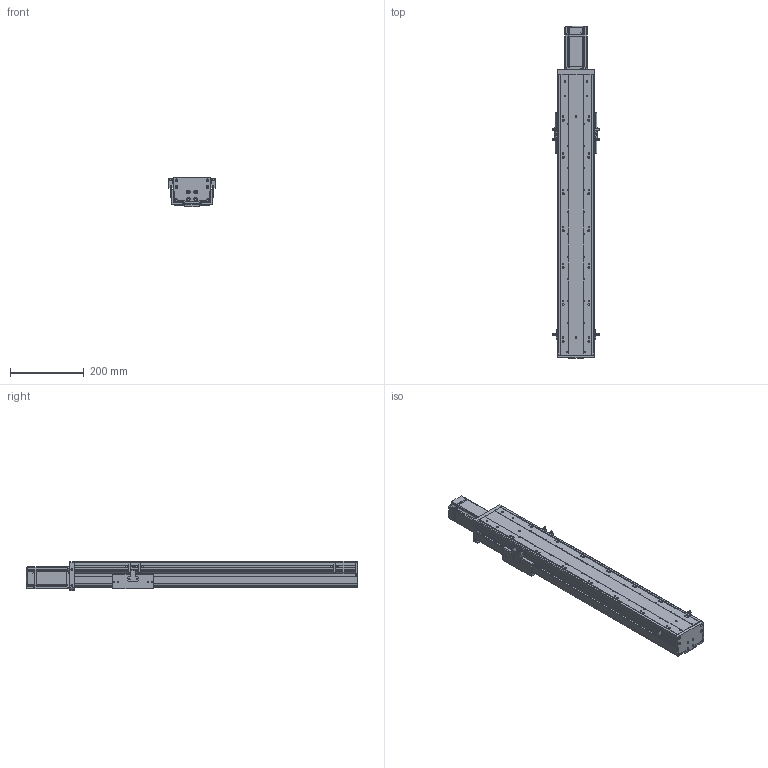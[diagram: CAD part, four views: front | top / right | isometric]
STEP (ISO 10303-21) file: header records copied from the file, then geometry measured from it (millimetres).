
FILE_DESCRIPTION (( 'STEP AP203' ), '1' );
FILE_NAME ('RY100FBS-L1610-300-MK(15双轨）.SLDASM_500.step', '2021-02-22T08:44:16', ( '盈信电脑' ), ( '东莞市道滘镇水果街19号' ), 'SwSTEP 2.0', 'SolidWorks 2012', '' );
FILE_SCHEMA (( 'CONFIG_CONTROL_DESIGN' ));
Length unit declared in the file: millimetre
Products named in the file (12): 覜茼ん672; RY100FB-遵嫖萇覜茼え; RY100FBS-L1610-300-MK(15双轨）.SLDASM_500; RY100FBS-后盖板(15双轨）; RY100FBS-前盖板(15双轨）; 15; 侂狟400W侜督萇儂; 滅袉蝶18-24; RY100FBS-300-上盖板(15双轨）_500; RY100FBS-铝滑块（16丝杆）; 滅袉蝶18-15; RY100FBS-300型材底座(15双轨）_500
Assembly tree (18 placements, depth 3):
  RY100FBS-L1610-300-MK(15双轨）.SLDASM_500
    RY100FBS-300型材底座(15双轨）_500
    滅袉蝶18-24  x2
    滅袉蝶18-15
    RY100FBS-铝滑块（16丝杆）
    RY100FBS-300-上盖板(15双轨）_500
    RY100FBS-前盖板(15双轨）
    RY100FBS-后盖板(15双轨）
    侂狟400W侜督萇儂
      15
    RY100FB-遵嫖萇覜茼え  x2
    覜茼ん672  x6
Bounding box: 127.4 x 900.5 x 78.75 mm (x, y, z)
Volume: 2195815.6 mm3; surface area: 751813.3 mm2
Topology: 17 solids, 17 shells, 1767 faces, 5011 edges, 3284 vertices
Faces by surface type: plane 869, cylinder 766, cone 114, bspline 18
Entity records: 46436 total; most frequent: CARTESIAN_POINT 9715, DIRECTION 7486, ORIENTED_EDGE 7366, EDGE_CURVE 3683, AXIS2_PLACEMENT_3D 2701, VERTEX_POINT 2432, VECTOR 2084, LINE 2084
